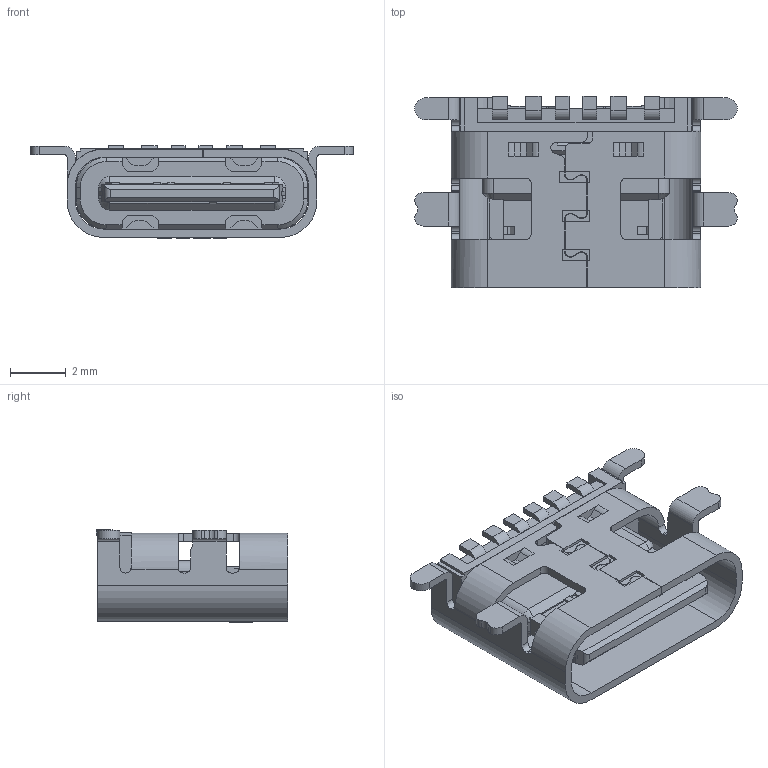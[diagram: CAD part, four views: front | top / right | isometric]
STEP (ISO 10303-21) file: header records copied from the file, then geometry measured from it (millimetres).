
FILE_DESCRIPTION (( 'STEP AP203' ), '1' );
FILE_NAME ('U5384-06PNT6.8L.STEP', '2026-09-22T05:47:42', ( '' ), ( '' ), 'SwSTEP 2.0', 'SolidWorks 2024', '' );
FILE_SCHEMA (( 'CONFIG_CONTROL_DESIGN' ));
Length unit declared in the file: millimetre
Products named in the file (1): U5384-06PNT6.8L
Bounding box: 11.54 x 6.84 x 3.31 mm (x, y, z)
Volume: 94.6 mm3; surface area: 418 mm2
Topology: 1 solids, 1 shells, 590 faces, 1694 edges, 1113 vertices
Faces by surface type: plane 412, cylinder 145, bspline 25, cone 8
Entity records: 20680 total; most frequent: CARTESIAN_POINT 5119, ORIENTED_EDGE 3384, DIRECTION 3031, EDGE_CURVE 1692, LINE 1301, VECTOR 1301, VERTEX_POINT 1113, AXIS2_PLACEMENT_3D 865
